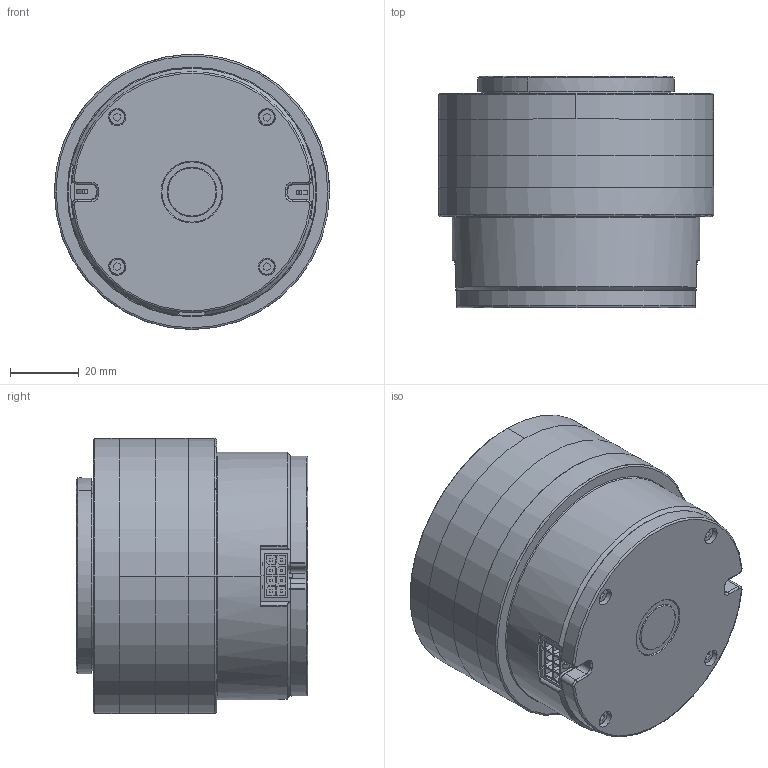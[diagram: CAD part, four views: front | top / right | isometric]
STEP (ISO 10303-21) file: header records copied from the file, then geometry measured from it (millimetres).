
FILE_DESCRIPTION (( 'STEP AP214' ), '1' );
FILE_NAME ('Qdd_6010_63D.STEP', '2019-04-25T03:23:36', ( 'Microsoft' ), ( 'Microsoft' ), 'SwSTEP 2.0', 'SolidWorks 2018', '' );
FILE_SCHEMA (( 'AUTOMOTIVE_DESIGN' ));
Length unit declared in the file: millimetre
Products named in the file (1): Qdd_6010_63D
Bounding box: 80 x 67.3 x 80 mm (x, y, z)
Volume: 269128.1 mm3; surface area: 103660.6 mm2
Topology: 25 solids, 26 shells, 2433 faces, 6022 edges, 3744 vertices
Faces by surface type: plane 1078, cylinder 637, torus 358, cone 161, bspline 143, sphere 56
Entity records: 107410 total; most frequent: CARTESIAN_POINT 23920, ORIENTED_EDGE 11972, DIRECTION 11351, EDGE_CURVE 5986, AXIS2_PLACEMENT_3D 4064, VERTEX_POINT 3744, LINE 3223, VECTOR 3223
